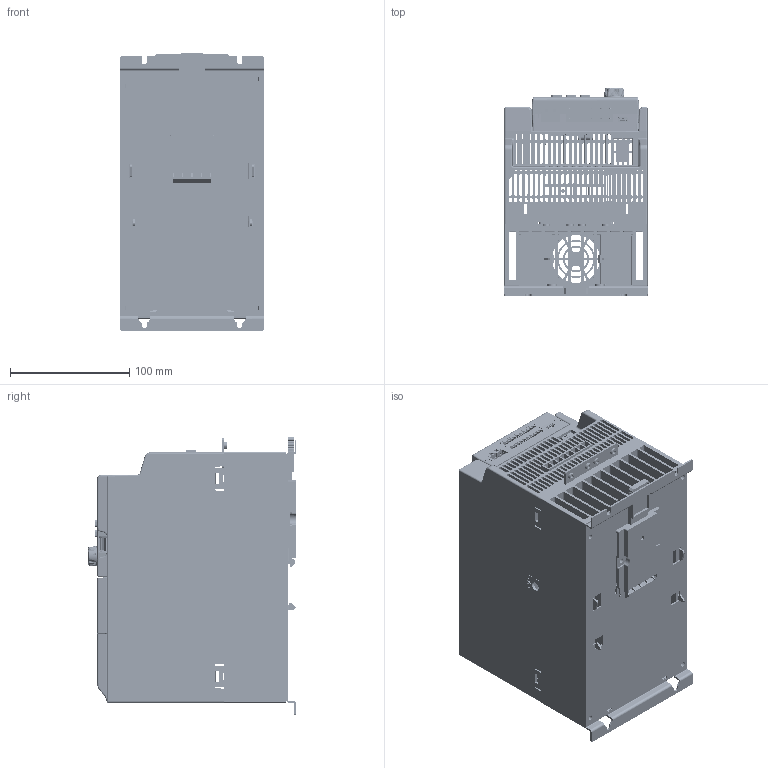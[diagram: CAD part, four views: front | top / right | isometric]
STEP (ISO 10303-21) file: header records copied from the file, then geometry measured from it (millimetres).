
FILE_DESCRIPTION((''),'2;1');
FILE_NAME('VFC5610-4K00-3P4-MNA-XX-NNNNN-N','2023-03-27T16:52:21',('ZUX1XI'),(''),'CREO PARAMETRIC BY PTC INC, 2021072','CREO PARAMETRIC BY PTC INC, 2021072','');
FILE_SCHEMA(('AUTOMOTIVE_DESIGN { 1 0 10303 214 1 1 1 1 }'));
Products named in the file (33): HEATSINK_6_1_1_1_1_1_1; P_E1_3_1_1_1_1_1_1; P_FAN_COVER1-2014_04_10_3_1_1_1; EFC5610_3KW_CASE_3_1_1_1_1_1_1; PL_EFC5610_IOCAE_CONVER_3_1_1_1; CPU_CONNECTOR-14P_3_1_1_1_1_1_1; 548190519_3_1_1_1_1_1_1; 1155590000_3_1_1_1_1_1_1; LK_YCP06_3_1_1_1_1_1_1; 01-IOBACK_CASE_3_1_1_1_1_1_1; 01-IOCASE_3_1_1_1_1_1_1; BOTTOM-PLATE_20170825_2_1_1_1_1; 00-D-S_5_1_1_1_1_1_1; PRT0010_0423_3_1_1_1_1_1_1; PRT0031_0423_3_1_1_1_1_1_1; DIN-0423_3_1_1_1_1_1_1; 00_EFCX610-D-3PH-STO_12_1_1_1_1; EFC_D-HOUSING_STO_1_1_1_1_1_1; EFCX610_3PH_3_4KW_D_HOUSING_STO; D_HOUSING_1_1_1_1; D_HOUSING_1_1_1; D_HOUSING_1_1; 01_DISPLAYCASE_00_1_1_1_1; LED_00_1_1_1_1; DISPLAY_PCB_00_1_ASM_1_1_1; BACK_CASE1_00_1_1_1_1; R911330333_FOLIE_00_1_1_1_1; BUUTTON_00_1_1_1_1; XUAN_NIU_00_1_1_1_1; 02-DISPLAY-CASE_00_1_ASM_1_1_1; 02-DISPLAY-CASE_00_1_ASM_1_1; VFC5610-4K00-3P4-MNA-XX-NNNNN_1; VFC5610-4K00-3P4-MNA-XX-NNNNN-N
Assembly tree (32 placements, depth 12):
  VFC5610-4K00-3P4-MNA-XX-NNNNN-N
    VFC5610-4K00-3P4-MNA-XX-NNNNN_1
      D_HOUSING_1_1
        D_HOUSING_1_1_1
          D_HOUSING_1_1_1_1
            EFCX610_3PH_3_4KW_D_HOUSING_STO
              EFC_D-HOUSING_STO_1_1_1_1_1_1
                00_EFCX610-D-3PH-STO_12_1_1_1_1
                  00-D-S_5_1_1_1_1_1_1
                  DIN-0423_3_1_1_1_1_1_1
      02-DISPLAY-CASE_00_1_ASM_1_1
        02-DISPLAY-CASE_00_1_ASM_1_1_1
          01_DISPLAYCASE_00_1_1_1_1
          DISPLAY_PCB_00_1_ASM_1_1_1
            LED_00_1_1_1_1
          BACK_CASE1_00_1_1_1_1
          R911330333_FOLIE_00_1_1_1_1
          BUUTTON_00_1_1_1_1
          XUAN_NIU_00_1_1_1_1
Bounding box: 120 x 175.05 x 233.5 mm (x, y, z)
Volume: 22521.6 mm3; surface area: 634193.5 mm2
Topology: 6 solids, 4304 shells, 6848 faces, 30445 edges, 27862 vertices
Faces by surface type: plane 4067, cylinder 1602, bspline 356, torus 279, cone 210, extrusion 180, sphere 154
Entity records: 495601 total; most frequent: CARTESIAN_POINT 123823, DIRECTION 42637, ORIENTED_EDGE 37024, PRESENTATION_STYLE_ASSIGNMENT 36371, STYLED_ITEM 35371, CURVE_STYLE 30371, EDGE_CURVE 30297, VERTEX_POINT 27864
